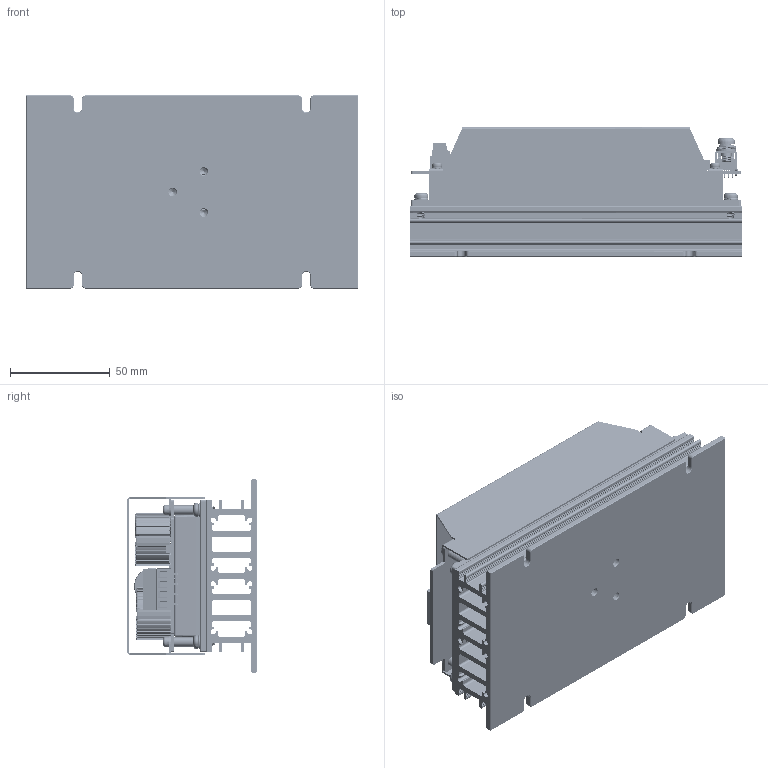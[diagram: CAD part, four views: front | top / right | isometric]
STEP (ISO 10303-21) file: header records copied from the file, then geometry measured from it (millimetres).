
FILE_DESCRIPTION (( 'STEP AP203' ), '1' );
FILE_NAME ('CHB300W-110S CMFD HS 3.3,5V成品圖2025.01.03.STEP', '2025-01-03T08:48:47', ( '' ), ( '' ), 'SwSTEP 2.0', 'SolidWorks 2020', '' );
FILE_SCHEMA (( 'CONFIG_CONTROL_DESIGN' ));
Products named in the file (1): CHB300W-110S CMFD HS 3.3,5V成品圖2025.01.03
Bounding box: 166 x 64.9 x 96.52 mm (x, y, z)
Volume: 313244 mm3; surface area: 215476.6 mm2
Topology: 21 solids, 43 shells, 3889 faces, 10475 edges, 6712 vertices
Faces by surface type: plane 1671, cylinder 1143, torus 611, bspline 323, cone 133, sphere 8
Full cylindrical faces by diameter (mm): 0.45 x24, 0.8 x4, 1 x13, 1.2 x5, 1.5 x2, 2 x5, 2.2 x8, 3.2 x11, 3.239 x3, 3.25 x1, 3.264 x1, 3.8 x4, 3.9 x40, 4 x9, 4.3 x4, 4.5 x4, 4.6 x4, 4.7 x4, 5 x8, 5.3 x4, 5.5 x4, 7 x4, 10 x4, 12 x1, 12.8 x1, 13 x1, 14 x2, 18.3 x2
Entity records: 214966 total; most frequent: CARTESIAN_POINT 125710, ORIENTED_EDGE 19832, DIRECTION 16652, EDGE_CURVE 9916, VERTEX_POINT 6493, AXIS2_PLACEMENT_3D 6127, EDGE_LOOP 4421, VECTOR 4398
